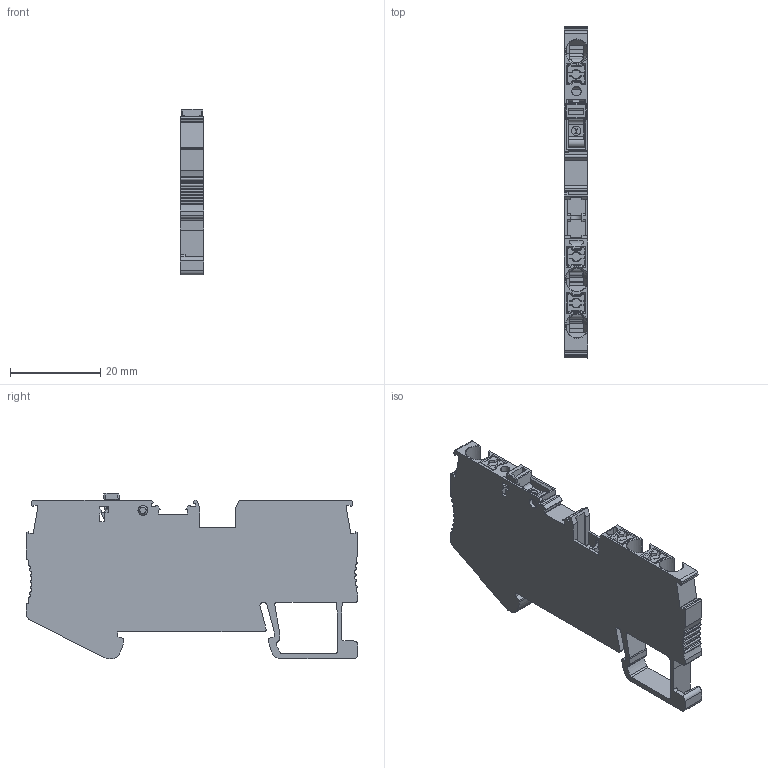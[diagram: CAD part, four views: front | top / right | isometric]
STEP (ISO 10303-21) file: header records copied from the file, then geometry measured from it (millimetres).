
FILE_DESCRIPTION((''),'2;1');
FILE_NAME('ADMI52F4AE488O4F_3','2024-03-29T10:24:37',('Administrator'),(''),'CREO PARAMETRIC BY PTC INC, 2018050','CREO PARAMETRIC BY PTC INC, 2018050','');
FILE_SCHEMA(('CONFIG_CONTROL_DESIGN'));
Length unit declared in the file: millimetre
Products named in the file (1): ADMI52F4AE488O4F_3
Bounding box: 5.2 x 73.7 x 36.85 mm (x, y, z)
Volume: 9368.1 mm3; surface area: 9535.5 mm2
Topology: 1 solids, 3 shells, 834 faces, 2591 edges, 1754 vertices
Faces by surface type: plane 469, cylinder 282, bspline 31, cone 29, torus 23
Entity records: 32010 total; most frequent: CARTESIAN_POINT 9024, ORIENTED_EDGE 4950, DIRECTION 4569, EDGE_CURVE 2575, VERTEX_POINT 1750, VECTOR 1669, LINE 1669, AXIS2_PLACEMENT_3D 1450
